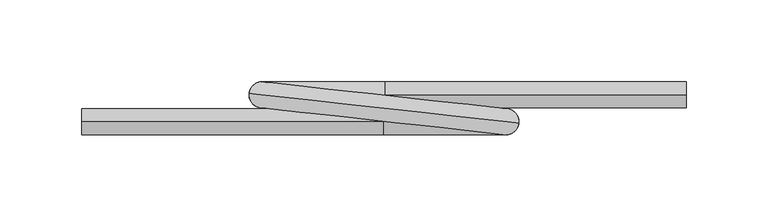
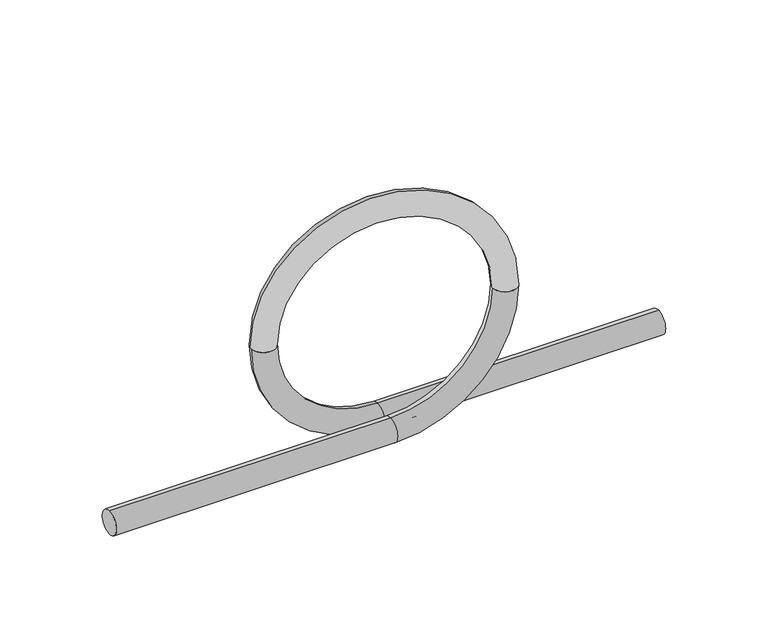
"""IFC4 building model written with IfcOpenShell, lengths in millimetres: pipe fitting geometry, KAN-therm PP kompensacja pętlicowa : KAN-therm PP kompensacja pętlicowa."""

from ifc_helpers import new_model, si_unit, point, frame, origin, place, context, project, spatial, circle_curve, ellipse_curve, trimmed, source, transform, mapped, element, save
from ifc_brep_helpers import plane_surface, cylinder_surface, revolved_surface, advanced_brep


def pipe_fitting_2de91ca1(model_context):
    return source(origin(), model_context, "Body", "AdvancedBrep", [
        advanced_brep(
        [(82.4963217, 1.12, 75.0), (66.5934163, 2.88, 75.0), (-82.4963217, 19.38, 75.0), (-66.5934163, 17.62, 75.0)],
        [
            (0, 1, circle_curve(frame((74.544869, 2.0, 75.0), z_axis=(0.0, 0.0, -1.0), x_axis=(-0.9939315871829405, 0.11000000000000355, 0.0)), 8.0)),
            (1, 0, circle_curve(frame((74.544869, 2.0, 75.0), z_axis=(0.0, 0.0, -1.0), x_axis=(-0.9939315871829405, 0.11000000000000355, 0.0)), 8.0)),
            (2, 3, circle_curve(frame((-74.544869, 18.5, 75.0), z_axis=(0.0, 0.0, -1.0), x_axis=(0.9939315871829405, -0.11000000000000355, 0.0)), 8.0)),
            (3, 2, circle_curve(frame((-74.544869, 18.5, 75.0), z_axis=(0.0, 0.0, -1.0), x_axis=(0.9939315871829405, -0.11000000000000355, 0.0)), 8.0)),
            (3, 1, circle_curve(frame((0.0, 10.25, 75.0), z_axis=(0.11000000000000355, 0.9939315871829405, 0.0), x_axis=(0.9939315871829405, -0.11000000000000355, 0.0)), 67.0)),
            (0, 2, circle_curve(frame((0.0, 10.25, 75.0), z_axis=(-0.11000000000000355, -0.9939315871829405, 0.0), x_axis=(0.9939315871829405, -0.11000000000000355, 0.0)), 83.0)),
        ],
        [
            plane_surface(frame((74.544869, 2.0, 75.0), z_axis=(0.0, 0.0, -1.0), x_axis=(-0.11000000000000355, -0.9939315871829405, 0.0))),
            plane_surface(frame((-74.544869, 18.5, 75.0), z_axis=(0.0, 0.0, -1.0), x_axis=(-0.11000000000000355, -0.9939315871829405, 0.0))),
            revolved_surface(trimmed(ellipse_curve(frame((74.544869, 2.0, 75.0), z_axis=(0.0, 0.0, -1.0), x_axis=(-0.9939315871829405, 0.11000000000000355, 0.0)), 8.0, 8.0), [point((82.4963217, 1.12, 75.0))], [point((66.5934163, 2.88, 75.0))], True, "CARTESIAN"), (0.0, 10.25, 75.0), (-0.11000000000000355, -0.9939315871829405, 0.0)),
            revolved_surface(trimmed(ellipse_curve(frame((74.544869, 2.0, 75.0), z_axis=(0.0, 0.0, -1.0), x_axis=(-0.9939315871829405, 0.11000000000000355, 0.0)), 8.0, 8.0), [point((66.5934163, 2.88, 75.0))], [point((82.4963217, 1.12, 75.0))], True, "CARTESIAN"), (0.0, 10.25, 75.0), (-0.11000000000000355, -0.9939315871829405, 0.0)),
        ],
        [
            (0, [[1, 2]]),
            (1, [[3, 4]]),
            (2, [[5, -1, 6, -4]]),
            (3, [[-6, -2, -5, -3]]),
        ],
    ),
        advanced_brep(
        [(-66.544869, 18.5, 75.0), (-82.544869, 18.5, 75.0), (0.455131, 18.5, -8.0), (0.455131, 18.5, 8.0), (185.0, 18.5, 8.0), (185.0, 18.5, -8.0)],
        [
            (0, 1, circle_curve(frame((-74.544869, 18.5, 75.0), z_axis=(0.0, 0.0, 1.0), x_axis=(-1.0, 0.0, 0.0)), 8.0)),
            (1, 0, circle_curve(frame((-74.544869, 18.5, 75.0), z_axis=(0.0, 0.0, 1.0), x_axis=(-1.0, 0.0, 0.0)), 8.0)),
            (2, 1, circle_curve(frame((0.455131, 18.5, 75.0), z_axis=(0.0, 1.0, 0.0), x_axis=(-1.0, 0.0, 0.0)), 83.0)),
            (0, 3, circle_curve(frame((0.455131, 18.5, 75.0), z_axis=(0.0, -1.0, 0.0), x_axis=(-1.0, 0.0, 0.0)), 67.0)),
            (3, 2, circle_curve(frame((0.455131, 18.5, 0.0), z_axis=(-1.0, 0.0, 0.0), x_axis=(0.0, 0.0, -1.0)), 8.0)),
            (2, 3, circle_curve(frame((0.455131, 18.5, 0.0), z_axis=(-1.0, 0.0, 0.0), x_axis=(0.0, 0.0, -1.0)), 8.0)),
            (4, 5, circle_curve(frame((185.0, 18.5, 0.0), z_axis=(1.0, 0.0, 0.0), x_axis=(0.0, 0.0, -1.0)), 8.0)),
            (5, 4, circle_curve(frame((185.0, 18.5, 0.0), z_axis=(1.0, 0.0, 0.0), x_axis=(0.0, 0.0, -1.0)), 8.0)),
            (3, 4),
            (5, 2),
        ],
        [
            plane_surface(frame((-74.544869, 18.5, 75.0), z_axis=(0.0, 0.0, 1.0), x_axis=(0.0, 1.0, 0.0))),
            revolved_surface(trimmed(ellipse_curve(frame((-74.544869, 18.5, 75.0), z_axis=(0.0, 0.0, 1.0), x_axis=(-1.0, 0.0, 0.0)), 8.0, 8.0), [point((-66.544869, 18.5, 75.0))], [point((-82.544869, 18.5, 75.0))], True, "CARTESIAN"), (0.455131, 18.5, 75.0), (0.0, -1.0, 0.0)),
            revolved_surface(trimmed(ellipse_curve(frame((-74.544869, 18.5, 75.0), z_axis=(0.0, 0.0, 1.0), x_axis=(-1.0, 0.0, 0.0)), 8.0, 8.0), [point((-82.544869, 18.5, 75.0))], [point((-66.544869, 18.5, 75.0))], True, "CARTESIAN"), (0.455131, 18.5, 75.0), (0.0, -1.0, 0.0)),
            plane_surface(frame((185.0, 18.5, 0.0), z_axis=(1.0, 0.0, 0.0), x_axis=(0.0, 1.0, 0.0))),
            cylinder_surface(frame((0.455131, 18.5, 0.0), z_axis=(-1.0, 0.0, 0.0), x_axis=(0.0, 0.0, -1.0)), 8.0),
        ],
        [
            (0, [[1, 2]]),
            (1, [[3, -1, 4, 5]]),
            (2, [[-4, -2, -3, 6]]),
            (3, [[7, 8]]),
            (4, [[-5, 9, -8, 10]]),
            (4, [[-6, -10, -7, -9]]),
        ],
    ),
        advanced_brep(
        [(-185.0, 2.0, -8.0), (-185.0, 2.0, 8.0), (-0.455131, 2.0, -8.0), (-0.455131, 2.0, 8.0), (82.544869, 2.0, 75.0), (66.544869, 2.0, 75.0)],
        [
            (0, 1, circle_curve(frame((-185.0, 2.0, 0.0), z_axis=(-1.0, 0.0, 0.0), x_axis=(0.0, 0.0, 1.0)), 8.0)),
            (1, 0, circle_curve(frame((-185.0, 2.0, 0.0), z_axis=(-1.0, 0.0, 0.0), x_axis=(0.0, 0.0, 1.0)), 8.0)),
            (0, 2),
            (2, 3, circle_curve(frame((-0.455131, 2.0, 0.0), z_axis=(-1.0, 0.0, 0.0), x_axis=(0.0, 0.0, 1.0)), 8.0)),
            (3, 1),
            (3, 2, circle_curve(frame((-0.455131, 2.0, 0.0), z_axis=(-1.0, 0.0, 0.0), x_axis=(0.0, 0.0, 1.0)), 8.0)),
            (4, 5, circle_curve(frame((74.544869, 2.0, 75.0), z_axis=(0.0, 0.0, 1.0), x_axis=(-1.0, 0.0, 0.0)), 8.0)),
            (5, 4, circle_curve(frame((74.544869, 2.0, 75.0), z_axis=(0.0, 0.0, 1.0), x_axis=(-1.0, 0.0, 0.0)), 8.0)),
            (5, 3, circle_curve(frame((-0.455131, 2.0, 75.0), z_axis=(0.0, 1.0, 0.0), x_axis=(0.0, 0.0, -1.0)), 67.0)),
            (2, 4, circle_curve(frame((-0.455131, 2.0, 75.0), z_axis=(0.0, -1.0, 0.0), x_axis=(0.0, 0.0, -1.0)), 83.0)),
        ],
        [
            plane_surface(frame((-185.0, 2.0, 0.0), z_axis=(-1.0, 0.0, 0.0), x_axis=(0.0, -1.0, 0.0))),
            cylinder_surface(frame((-185.0, 2.0, 0.0), z_axis=(-1.0, 0.0, 0.0), x_axis=(0.0, 0.0, 1.0)), 8.0),
            plane_surface(frame((74.544869, 2.0, 75.0), z_axis=(0.0, 0.0, 1.0), x_axis=(0.0, -1.0, 0.0))),
            revolved_surface(trimmed(ellipse_curve(frame((-0.455131, 2.0, 0.0), z_axis=(-1.0, 0.0, 0.0), x_axis=(0.0, 0.0, 1.0)), 8.0, 8.0), [point((-0.455131, 2.0, -8.0))], [point((-0.455131, 2.0, 8.0))], True, "CARTESIAN"), (-0.455131, 2.0, 75.0), (0.0, -1.0, 0.0)),
            revolved_surface(trimmed(ellipse_curve(frame((-0.455131, 2.0, 0.0), z_axis=(-1.0, 0.0, 0.0), x_axis=(0.0, 0.0, 1.0)), 8.0, 8.0), [point((-0.455131, 2.0, 8.0))], [point((-0.455131, 2.0, -8.0))], True, "CARTESIAN"), (-0.455131, 2.0, 75.0), (0.0, -1.0, 0.0)),
        ],
        [
            (0, [[1, 2]]),
            (1, [[-1, 3, 4, 5]]),
            (1, [[-2, -5, 6, -3]]),
            (2, [[7, 8]]),
            (3, [[9, -4, 10, -8]]),
            (4, [[-10, -6, -9, -7]]),
        ],
    ),
    ])


if __name__ == "__main__":
    model = new_model("IFC4")
    model_context = context("Model", 3, world=origin())
    ifc_project = project(units=[si_unit("LENGTHUNIT", "METRE", prefix="MILLI")], contexts=[model_context])
    site = spatial("IfcSite", under=ifc_project)
    building = spatial("IfcBuilding", under=site)
    placement = place(None, origin())
    pipe_fitting_shape = pipe_fitting_2de91ca1(model_context)
    element("IfcPipeFitting", 1, ObjectType="KAN-therm PP kompensacja pętlicowa : KAN-therm PP kompensacja pętlicowa", at=placement, inside=building, context=model_context, shape_type="MappedRepresentation", body=[
        mapped(pipe_fitting_shape, transform((0.0, 0.0, 0.0), x_axis=(1.0, 0.0, 0.0), y_axis=(0.0, 1.0, 0.0), z_axis=(0.0, 0.0, 1.0))),
    ])
    save(model, "model.ifc")
